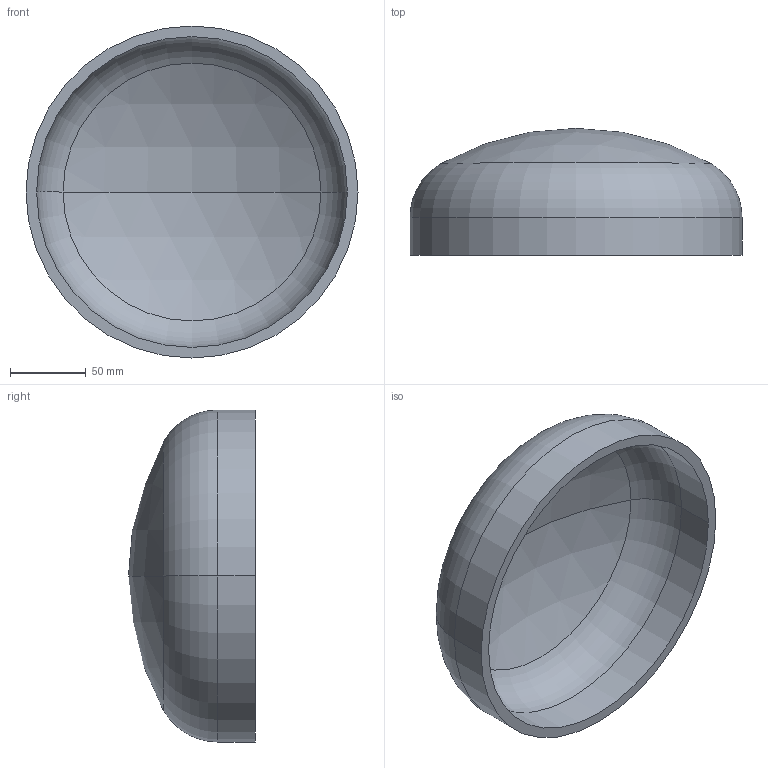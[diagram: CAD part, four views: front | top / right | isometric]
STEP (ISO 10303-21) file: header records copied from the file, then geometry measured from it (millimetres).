
FILE_DESCRIPTION (( 'STEP AP203' ), '1' );
FILE_NAME ('DIN 28013 Korbbogenform_-_Boden DIN 28013 - 219,1 x 25 - I - s=7.step', '2016-07-01T07:42:23', ( '' ), ( '' ), 'SwSTEP 2.0', 'SolidWorks 2013', '' );
FILE_SCHEMA (( 'CONFIG_CONTROL_DESIGN' ));
Length unit declared in the file: millimetre
Products named in the file (1): DIN 28013 Korbbogenform_-_Boden DIN 28013 - 219,1 x 25 - I - s=7
Bounding box: 219.1 x 83.79 x 219.1 mm (x, y, z)
Volume: 467795.3 mm3; surface area: 138422.7 mm2
Topology: 1 solids, 1 shells, 13 faces, 24 edges, 14 vertices
Faces by surface type: torus 4, cylinder 4, sphere 4, plane 1
Entity records: 407 total; most frequent: DIRECTION 72, CARTESIAN_POINT 52, ORIENTED_EDGE 48, AXIS2_PLACEMENT_3D 34, EDGE_CURVE 24, CIRCLE 20, EDGE_LOOP 14, VERTEX_POINT 14
